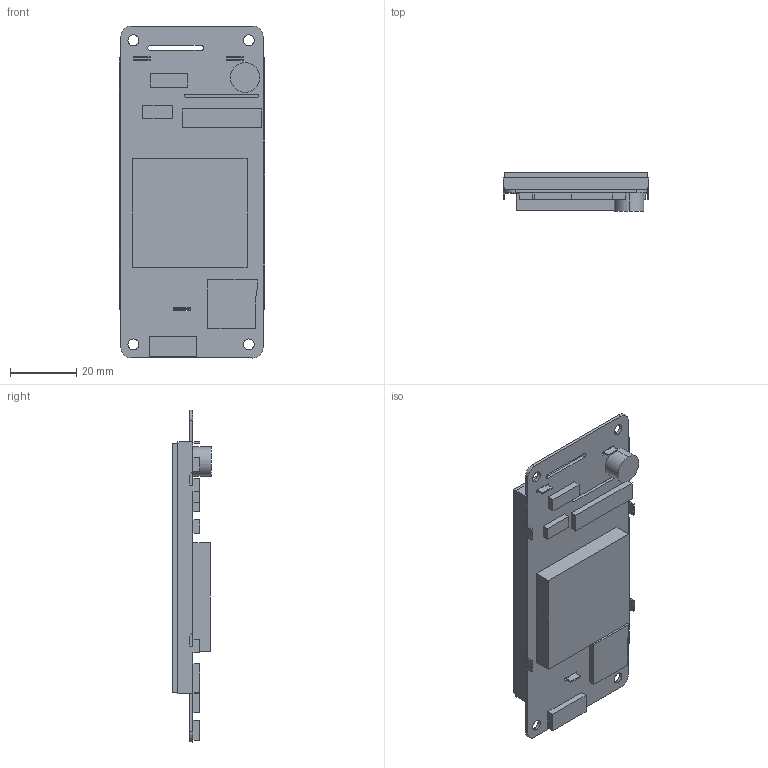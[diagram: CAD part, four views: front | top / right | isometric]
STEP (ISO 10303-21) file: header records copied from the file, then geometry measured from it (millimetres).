
FILE_DESCRIPTION((''),'2;1');
FILE_NAME('DMG64360K030_01WN','2022-05-25T',('Administrator'),(''),'PRO/ENGINEER BY PARAMETRIC TECHNOLOGY CORPORATION, 2011310','PRO/ENGINEER BY PARAMETRIC TECHNOLOGY CORPORATION, 2011310','');
FILE_SCHEMA(('CONFIG_CONTROL_DESIGN','SHAPE_APPEARANCE_LAYERS_GROUPS'));
Length unit declared in the file: millimetre
Products named in the file (1): DMG64360K030_01WN
Bounding box: 43.8 x 11.55 x 100 mm (x, y, z)
Volume: 24115.9 mm3; surface area: 23825 mm2
Topology: 1 solids, 2 shells, 173 faces, 492 edges, 324 vertices
Faces by surface type: plane 151, cylinder 22
Entity records: 6728 total; most frequent: CARTESIAN_POINT 982, ORIENTED_EDGE 968, DIRECTION 884, EDGE_CURVE 484, VECTOR 448, LINE 448, VERTEX_POINT 316, AXIS2_PLACEMENT_3D 218
